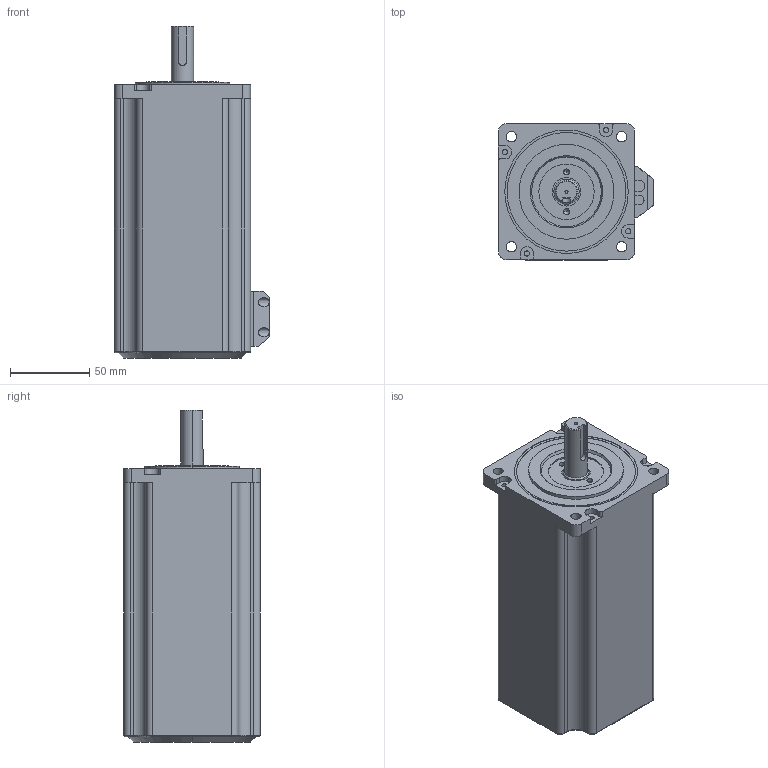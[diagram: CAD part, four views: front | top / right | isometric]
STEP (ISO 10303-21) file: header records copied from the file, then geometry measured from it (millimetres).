
FILE_DESCRIPTION((''),'2;1');
FILE_NAME('QL86HS156','2022-03-23T09:27:00',('qingl'),(''),'CREO PARAMETRIC BY PTC INC, 2019224','CREO PARAMETRIC BY PTC INC, 2019224','');
FILE_SCHEMA(('CONFIG_CONTROL_DESIGN'));
Length unit declared in the file: millimetre
Products named in the file (1): QL86HS156
Bounding box: 98 x 86 x 209.8 mm (x, y, z)
Volume: 1150651.3 mm3; surface area: 76482.4 mm2
Topology: 1 solids, 2 shells, 344 faces, 936 edges, 619 vertices
Faces by surface type: cylinder 233, plane 72, cone 19, torus 12, bspline 8
Entity records: 15817 total; most frequent: CARTESIAN_POINT 7463, ORIENTED_EDGE 1872, DIRECTION 1531, EDGE_CURVE 936, VERTEX_POINT 619, AXIS2_PLACEMENT_3D 577, EDGE_LOOP 383, VECTOR 377
